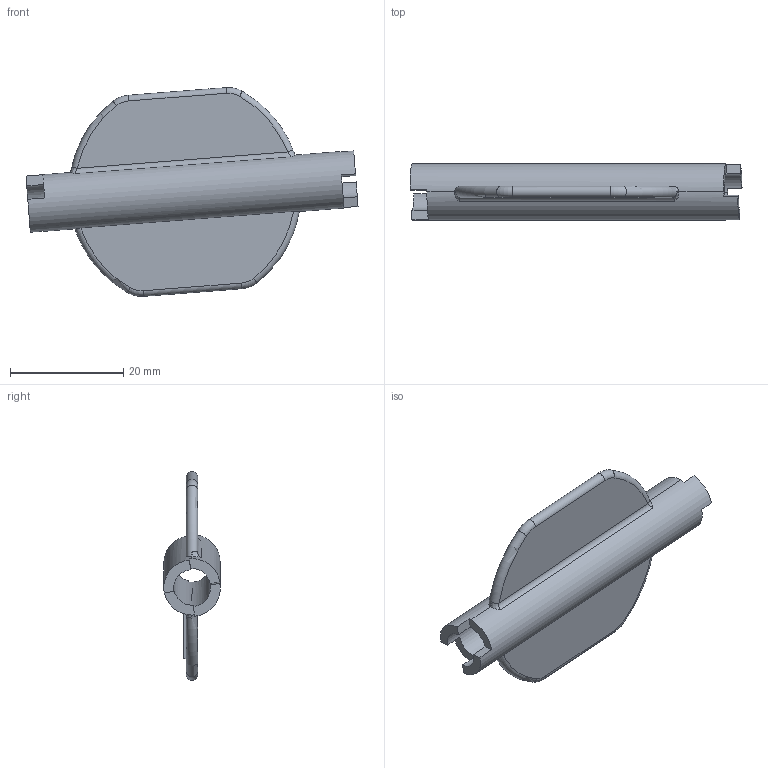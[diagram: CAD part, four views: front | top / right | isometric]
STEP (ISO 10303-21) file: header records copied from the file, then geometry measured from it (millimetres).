
FILE_DESCRIPTION((''),'2;1');
FILE_NAME('0000237108_PRT','2025-11-12T18:33:25',('Wyndorps'),(''),'CREO PARAMETRIC BY PTC INC, 2025010','CREO PARAMETRIC BY PTC INC, 2025010','');
FILE_SCHEMA(('CONFIG_CONTROL_DESIGN'));
Length unit declared in the file: millimetre
Products named in the file (1): 0000237108_PRT
Bounding box: 58.71 x 10 x 36.91 mm (x, y, z)
Volume: 4193.6 mm3; surface area: 4695.7 mm2
Topology: 1 solids, 1 shells, 113 faces, 307 edges, 202 vertices
Faces by surface type: plane 64, extrusion 25, cylinder 12, torus 8, bspline 4
Entity records: 4067 total; most frequent: CARTESIAN_POINT 1270, ORIENTED_EDGE 614, DIRECTION 486, EDGE_CURVE 307, VECTOR 206, VERTEX_POINT 202, LINE 181, AXIS2_PLACEMENT_3D 140
